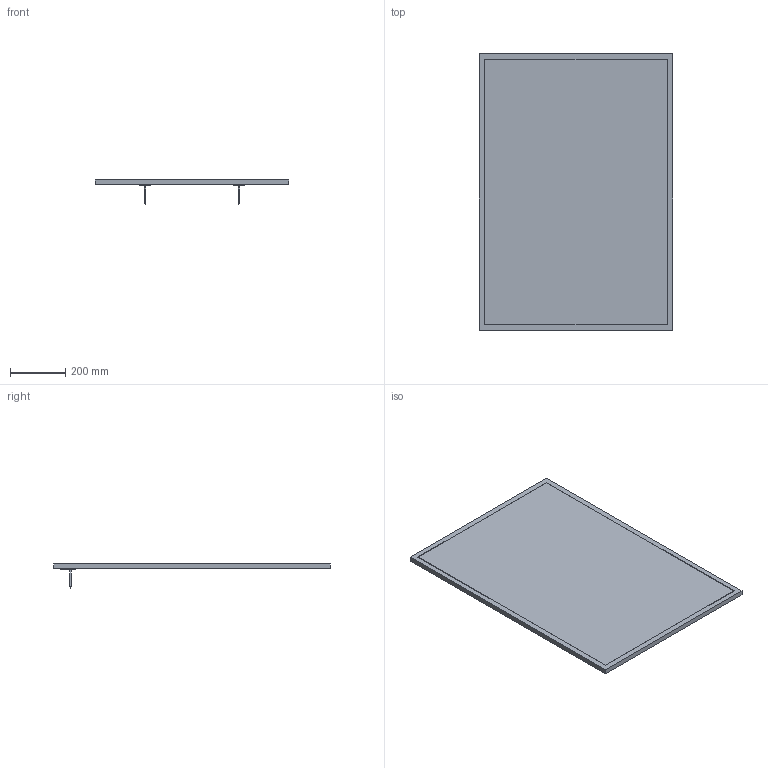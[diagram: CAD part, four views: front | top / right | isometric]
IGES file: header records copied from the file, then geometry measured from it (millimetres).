
Global section: file name: 3D Dosyası,; native system: Autodesk Inventor 2024; preprocessor: unknown; author: MSI; date: 20250903.152613; units: millimetre
Bounding box: 700 x 1000 x 88 mm (x, y, z)
Volume: 5041625.3 mm3; surface area: 1724435.8 mm2
Topology: 6 solids, 6 shells, 219 faces, 588 edges, 374 vertices
Faces by surface type: bspline 219
